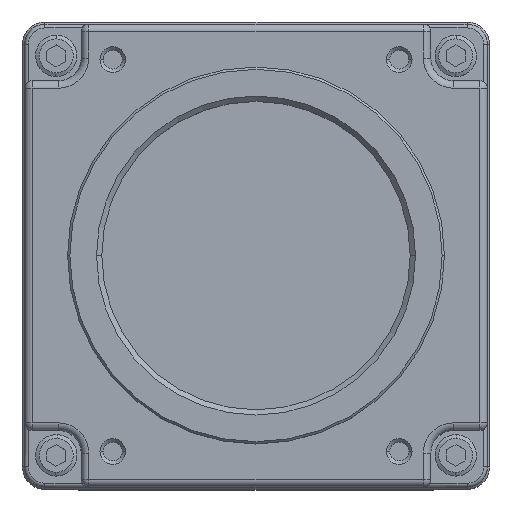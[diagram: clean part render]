
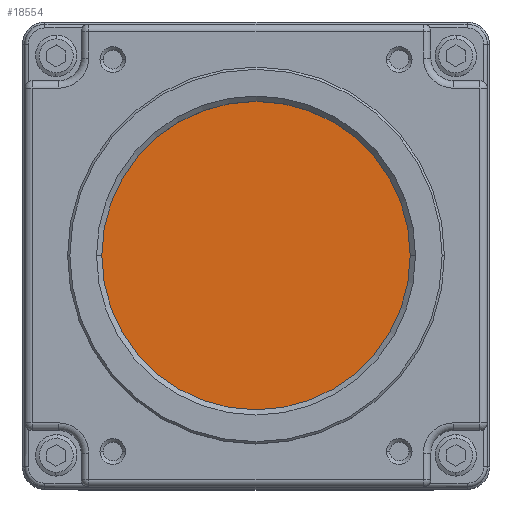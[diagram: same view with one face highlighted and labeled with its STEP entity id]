
A CAD part, top view. The second image highlights one B-rep face of the part: STEP entity #18554.
In plain terms, the highlighted planar face has unit normal (0, 0, 1).
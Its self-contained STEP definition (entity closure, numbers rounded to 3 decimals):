
#2974=CARTESIAN_POINT('',(4.365,56.9,14.756));
#2975=DIRECTION('',(0.,0.,1.));
#2976=DIRECTION('',(0.,1.,0.));
#2977=AXIS2_PLACEMENT_3D('',#2974,#2975,#2976);
#2979=CARTESIAN_POINT('',(57.365,56.9,14.756));
#2980=DIRECTION('',(0.,0.,1.));
#2981=DIRECTION('',(1.,0.,0.));
#2982=AXIS2_PLACEMENT_3D('',#2979,#2980,#2981);
#2984=DIRECTION('',(0.,1.,0.));
#2985=VECTOR('',#2984,53.);
#2986=CARTESIAN_POINT('',(60.365,3.9,14.756));
#2987=LINE('',#2986,#2985);
#2988=CARTESIAN_POINT('',(57.365,3.9,14.756));
#2989=DIRECTION('',(0.,0.,1.));
#2990=DIRECTION('',(0.,-1.,0.));
#2991=AXIS2_PLACEMENT_3D('',#2988,#2989,#2990);
#2993=CARTESIAN_POINT('',(4.365,3.9,14.756));
#2994=DIRECTION('',(0.,0.,1.));
#2995=DIRECTION('',(-1.,0.,0.));
#2996=AXIS2_PLACEMENT_3D('',#2993,#2994,#2995);
#2998=CARTESIAN_POINT('',(42.865,4.4,14.756));
#2999=DIRECTION('',(0.,0.,-1.));
#3000=DIRECTION('',(-1.,0.,0.));
#3001=AXIS2_PLACEMENT_3D('',#2998,#2999,#3000);
#3003=CARTESIAN_POINT('',(42.865,4.4,14.756));
#3004=DIRECTION('',(0.,0.,-1.));
#3005=DIRECTION('',(1.,0.,0.));
#3006=AXIS2_PLACEMENT_3D('',#3003,#3004,#3005);
#3008=CARTESIAN_POINT('',(4.365,56.9,14.756));
#3009=DIRECTION('',(0.,0.,-1.));
#3010=DIRECTION('',(1.,0.,0.));
#3011=AXIS2_PLACEMENT_3D('',#3008,#3009,#3010);
#3013=CARTESIAN_POINT('',(4.365,56.9,14.756));
#3014=DIRECTION('',(0.,0.,-1.));
#3015=DIRECTION('',(-1.,0.,0.));
#3016=AXIS2_PLACEMENT_3D('',#3013,#3014,#3015);
#3018=CARTESIAN_POINT('',(57.365,56.9,14.756));
#3019=DIRECTION('',(0.,0.,-1.));
#3020=DIRECTION('',(1.,0.,0.));
#3021=AXIS2_PLACEMENT_3D('',#3018,#3019,#3020);
#3023=CARTESIAN_POINT('',(57.365,56.9,14.756));
#3024=DIRECTION('',(0.,0.,-1.));
#3025=DIRECTION('',(-1.,0.,0.));
#3026=AXIS2_PLACEMENT_3D('',#3023,#3024,#3025);
#3028=CARTESIAN_POINT('',(4.365,3.9,14.756));
#3029=DIRECTION('',(0.,0.,-1.));
#3030=DIRECTION('',(1.,0.,0.));
#3031=AXIS2_PLACEMENT_3D('',#3028,#3029,#3030);
#3033=CARTESIAN_POINT('',(4.365,3.9,14.756));
#3034=DIRECTION('',(0.,0.,-1.));
#3035=DIRECTION('',(-1.,0.,0.));
#3036=AXIS2_PLACEMENT_3D('',#3033,#3034,#3035);
#3038=CARTESIAN_POINT('',(57.365,3.9,14.756));
#3039=DIRECTION('',(0.,0.,-1.));
#3040=DIRECTION('',(1.,0.,0.));
#3041=AXIS2_PLACEMENT_3D('',#3038,#3039,#3040);
#3043=CARTESIAN_POINT('',(57.365,3.9,14.756));
#3044=DIRECTION('',(0.,0.,-1.));
#3045=DIRECTION('',(-1.,0.,0.));
#3046=AXIS2_PLACEMENT_3D('',#3043,#3044,#3045);
#3048=CARTESIAN_POINT('',(42.865,56.4,14.756));
#3049=DIRECTION('',(0.,0.,-1.));
#3050=DIRECTION('',(-1.,0.,0.));
#3051=AXIS2_PLACEMENT_3D('',#3048,#3049,#3050);
#3053=CARTESIAN_POINT('',(42.865,56.4,14.756));
#3054=DIRECTION('',(0.,0.,-1.));
#3055=DIRECTION('',(1.,0.,0.));
#3056=AXIS2_PLACEMENT_3D('',#3053,#3054,#3055);
#3066=DIRECTION('',(0.,-1.,0.));
#3067=VECTOR('',#3066,53.);
#3068=CARTESIAN_POINT('',(1.365,56.9,14.756));
#3069=LINE('',#3068,#3067);
#3082=DIRECTION('',(1.,0.,0.));
#3083=VECTOR('',#3082,53.);
#3084=CARTESIAN_POINT('',(4.365,0.9,14.756));
#3085=LINE('',#3084,#3083);
#3102=DIRECTION('',(-1.,0.,0.));
#3103=VECTOR('',#3102,53.);
#3104=CARTESIAN_POINT('',(57.365,59.9,14.756));
#3105=LINE('',#3104,#3103);
#9989=CARTESIAN_POINT('',(60.365,56.9,14.756));
#9991=VERTEX_POINT('',#9989);
#9993=CARTESIAN_POINT('',(60.365,3.9,14.756));
#9994=VERTEX_POINT('',#9993);
#9997=CARTESIAN_POINT('',(57.365,59.9,14.756));
#9998=VERTEX_POINT('',#9997);
#10001=CARTESIAN_POINT('',(4.365,59.9,14.756));
#10002=CARTESIAN_POINT('',(1.365,56.9,14.756));
#10003=VERTEX_POINT('',#10001);
#10004=VERTEX_POINT('',#10002);
#10005=CARTESIAN_POINT('',(57.365,0.9,
14.756));
#10006=VERTEX_POINT('',#10005);
#10007=CARTESIAN_POINT('',(4.365,0.9,
14.756));
#10008=VERTEX_POINT('',#10007);
#10009=CARTESIAN_POINT('',(1.365,3.9,14.756));
#10010=VERTEX_POINT('',#10009);
#10011=CARTESIAN_POINT('',(40.365,4.4,14.756));
#10012=CARTESIAN_POINT('',(45.365,4.4,14.756));
#10013=VERTEX_POINT('',#10011);
#10014=VERTEX_POINT('',#10012);
#10015=CARTESIAN_POINT('',(6.015,56.9,14.756));
#10016=CARTESIAN_POINT('',(2.715,56.9,14.756));
#10017=VERTEX_POINT('',#10015);
#10018=VERTEX_POINT('',#10016);
#10019=CARTESIAN_POINT('',(59.015,56.9,14.756));
#10020=CARTESIAN_POINT('',(55.715,56.9,14.756));
#10021=VERTEX_POINT('',#10019);
#10022=VERTEX_POINT('',#10020);
#10023=CARTESIAN_POINT('',(6.015,3.9,14.756));
#10024=CARTESIAN_POINT('',(2.715,3.9,14.756));
#10025=VERTEX_POINT('',#10023);
#10026=VERTEX_POINT('',#10024);
#10027=CARTESIAN_POINT('',(59.015,3.9,14.756));
#10028=CARTESIAN_POINT('',(55.715,3.9,14.756));
#10029=VERTEX_POINT('',#10027);
#10030=VERTEX_POINT('',#10028);
#10031=CARTESIAN_POINT('',(40.365,56.4,14.756));
#10032=CARTESIAN_POINT('',(45.365,56.4,14.756));
#10033=VERTEX_POINT('',#10031);
#10034=VERTEX_POINT('',#10032);
#18497=CARTESIAN_POINT('',(30.865,30.4,14.756));
#18498=DIRECTION('',(0.,0.,1.));
#18499=DIRECTION('',(1.,0.,0.));
#18500=AXIS2_PLACEMENT_3D('',#18497,#18498,#18499);
#18501=PLANE('',#18500);
#18503=ORIENTED_EDGE('',*,*,#18502,.F.);
#18505=ORIENTED_EDGE('',*,*,#18504,.F.);
#18506=ORIENTED_EDGE('',*,*,#18481,.F.);
#18507=ORIENTED_EDGE('',*,*,#18464,.F.);
#18509=ORIENTED_EDGE('',*,*,#18508,.F.);
#18511=ORIENTED_EDGE('',*,*,#18510,.F.);
#18513=ORIENTED_EDGE('',*,*,#18512,.F.);
#18515=ORIENTED_EDGE('',*,*,#18514,.F.);
#18516=EDGE_LOOP('',(#18503,#18505,#18506,#18507,#18509,#18511,#18513,#18515));
#18517=FACE_OUTER_BOUND('',#18516,.F.);
#18519=ORIENTED_EDGE('',*,*,#18518,.F.);
#18521=ORIENTED_EDGE('',*,*,#18520,.F.);
#18522=EDGE_LOOP('',(#18519,#18521));
#18523=FACE_BOUND('',#18522,.F.);
#18525=ORIENTED_EDGE('',*,*,#18524,.F.);
#18527=ORIENTED_EDGE('',*,*,#18526,.F.);
#18528=EDGE_LOOP('',(#18525,#18527));
#18529=FACE_BOUND('',#18528,.F.);
#18531=ORIENTED_EDGE('',*,*,#18530,.F.);
#18533=ORIENTED_EDGE('',*,*,#18532,.F.);
#18534=EDGE_LOOP('',(#18531,#18533));
#18535=FACE_BOUND('',#18534,.F.);
#18537=ORIENTED_EDGE('',*,*,#18536,.F.);
#18539=ORIENTED_EDGE('',*,*,#18538,.F.);
#18540=EDGE_LOOP('',(#18537,#18539));
#18541=FACE_BOUND('',#18540,.F.);
#18543=ORIENTED_EDGE('',*,*,#18542,.F.);
#18545=ORIENTED_EDGE('',*,*,#18544,.F.);
#18546=EDGE_LOOP('',(#18543,#18545));
#18547=FACE_BOUND('',#18546,.F.);
#18549=ORIENTED_EDGE('',*,*,#18548,.F.);
#18551=ORIENTED_EDGE('',*,*,#18550,.F.);
#18552=EDGE_LOOP('',(#18549,#18551));
#18553=FACE_BOUND('',#18552,.F.);
#2978=CIRCLE('',#2977,3.);
#2983=CIRCLE('',#2982,3.);
#2992=CIRCLE('',#2991,3.);
#2997=CIRCLE('',#2996,3.);
#3002=CIRCLE('',#3001,2.5);
#3007=CIRCLE('',#3006,2.5);
#3012=CIRCLE('',#3011,1.65);
#3017=CIRCLE('',#3016,1.65);
#3022=CIRCLE('',#3021,1.65);
#3027=CIRCLE('',#3026,1.65);
#3032=CIRCLE('',#3031,1.65);
#3037=CIRCLE('',#3036,1.65);
#3042=CIRCLE('',#3041,1.65);
#3047=CIRCLE('',#3046,1.65);
#3052=CIRCLE('',#3051,2.5);
#3057=CIRCLE('',#3056,2.5);
#18464=EDGE_CURVE('',#9994,#9991,#2987,.T.);
#18481=EDGE_CURVE('',#9991,#9998,#2983,.T.);
#18502=EDGE_CURVE('',#10003,#10004,#2978,.T.);
#18504=EDGE_CURVE('',#9998,#10003,#3105,.T.);
#18508=EDGE_CURVE('',#10006,#9994,#2992,.T.);
#18510=EDGE_CURVE('',#10008,#10006,#3085,.T.);
#18512=EDGE_CURVE('',#10010,#10008,#2997,.T.);
#18514=EDGE_CURVE('',#10004,#10010,#3069,.T.);
#18518=EDGE_CURVE('',#10013,#10014,#3002,.T.);
#18520=EDGE_CURVE('',#10014,#10013,#3007,.T.);
#18524=EDGE_CURVE('',#10017,#10018,#3012,.T.);
#18526=EDGE_CURVE('',#10018,#10017,#3017,.T.);
#18530=EDGE_CURVE('',#10021,#10022,#3022,.T.);
#18532=EDGE_CURVE('',#10022,#10021,#3027,.T.);
#18536=EDGE_CURVE('',#10025,#10026,#3032,.T.);
#18538=EDGE_CURVE('',#10026,#10025,#3037,.T.);
#18542=EDGE_CURVE('',#10029,#10030,#3042,.T.);
#18544=EDGE_CURVE('',#10030,#10029,#3047,.T.);
#18548=EDGE_CURVE('',#10033,#10034,#3052,.T.);
#18550=EDGE_CURVE('',#10034,#10033,#3057,.T.);
#18554=ADVANCED_FACE('',(#18517,#18523,#18529,#18535,#18541,#18547,#18553),
#18501,.T.);
